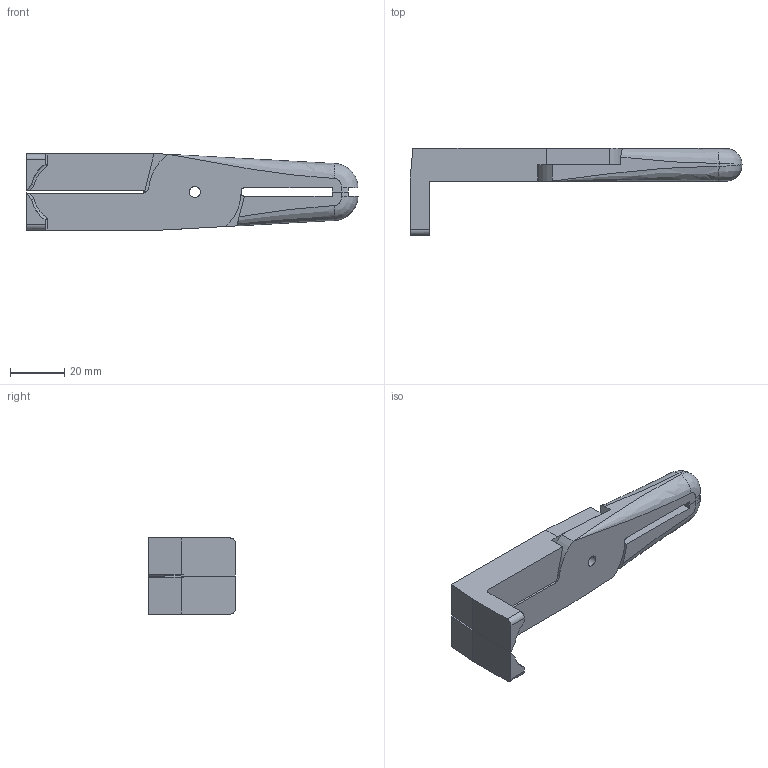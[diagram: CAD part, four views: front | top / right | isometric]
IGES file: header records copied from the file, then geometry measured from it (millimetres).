
Global section: file name: N20ALL; native system: unknown; preprocessor: unknown; author: unknown; organization: unknown; date: 20210409.133649; units: millimetre
Bounding box: 122.14 x 32 x 28 mm (x, y, z)
Volume: 35806 mm3; surface area: 14624.6 mm2
Topology: 2 solids, 2 shells, 74 faces, 200 edges, 128 vertices
Faces by surface type: bspline 74
